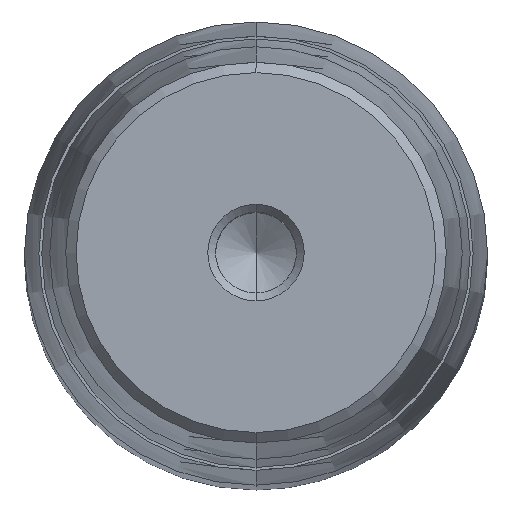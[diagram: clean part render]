
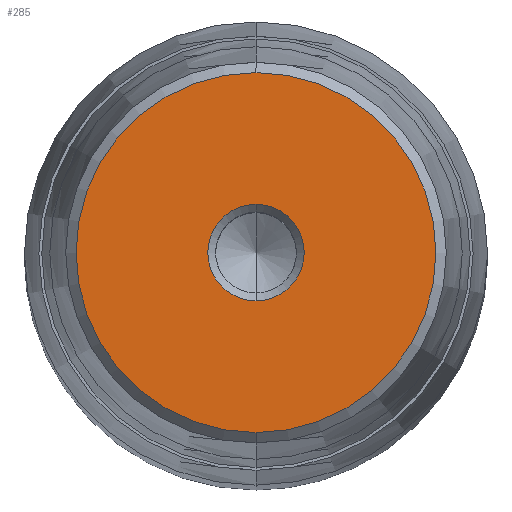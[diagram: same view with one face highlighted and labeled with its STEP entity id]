
A CAD part, top view. The second image highlights one B-rep face of the part: STEP entity #285.
In plain terms, the highlighted planar face has unit normal (0, 0, 1).
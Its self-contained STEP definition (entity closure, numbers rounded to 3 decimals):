
#164=CARTESIAN_POINT('Axis2P3D Location',(0.,0.,58.)) ;
#168=CARTESIAN_POINT('Vertex',(5.,0.,58.)) ;
#170=CARTESIAN_POINT('Vertex',(0.,-5.,58.)) ;
#173=CARTESIAN_POINT('Axis2P3D Location',(0.,0.,58.)) ;
#177=CARTESIAN_POINT('Vertex',(0.,5.,58.)) ;
#228=CARTESIAN_POINT('Axis2P3D Location',(0.,5.,58.)) ;
#233=CARTESIAN_POINT('Axis2P3D Location',(0.,0.,58.)) ;
#237=CARTESIAN_POINT('Vertex',(0.,18.65,58.)) ;
#239=CARTESIAN_POINT('Vertex',(18.65,0.,58.)) ;
#242=CARTESIAN_POINT('Axis2P3D Location',(0.,0.,58.)) ;
#246=CARTESIAN_POINT('Vertex',(-18.65,0.,58.)) ;
#249=CARTESIAN_POINT('Axis2P3D Location',(0.,0.,58.)) ;
#253=CARTESIAN_POINT('Vertex',(0.,-18.65,58.)) ;
#256=CARTESIAN_POINT('Axis2P3D Location',(0.,0.,58.)) ;
#267=CARTESIAN_POINT('Axis2P3D Location',(0.,0.,58.)) ;
#271=CARTESIAN_POINT('Vertex',(-5.,0.,58.)) ;
#274=CARTESIAN_POINT('Axis2P3D Location',(0.,0.,58.)) ;
#165=DIRECTION('Axis2P3D Direction',(0.,0.,1.)) ;
#174=DIRECTION('Axis2P3D Direction',(0.,0.,1.)) ;
#229=DIRECTION('Axis2P3D Direction',(-0.,0.,-1.)) ;
#230=DIRECTION('Axis2P3D XDirection',(0.,1.,0.)) ;
#234=DIRECTION('Axis2P3D Direction',(-0.,0.,-1.)) ;
#243=DIRECTION('Axis2P3D Direction',(-0.,0.,-1.)) ;
#250=DIRECTION('Axis2P3D Direction',(-0.,0.,-1.)) ;
#257=DIRECTION('Axis2P3D Direction',(-0.,0.,-1.)) ;
#268=DIRECTION('Axis2P3D Direction',(-0.,0.,-1.)) ;
#275=DIRECTION('Axis2P3D Direction',(-0.,0.,-1.)) ;
#166=AXIS2_PLACEMENT_3D('Circle Axis2P3D',#164,#165,$) ;
#175=AXIS2_PLACEMENT_3D('Circle Axis2P3D',#173,#174,$) ;
#231=AXIS2_PLACEMENT_3D('Plane Axis2P3D',#228,#229,#230) ;
#235=AXIS2_PLACEMENT_3D('Circle Axis2P3D',#233,#234,$) ;
#244=AXIS2_PLACEMENT_3D('Circle Axis2P3D',#242,#243,$) ;
#251=AXIS2_PLACEMENT_3D('Circle Axis2P3D',#249,#250,$) ;
#258=AXIS2_PLACEMENT_3D('Circle Axis2P3D',#256,#257,$) ;
#269=AXIS2_PLACEMENT_3D('Circle Axis2P3D',#267,#268,$) ;
#276=AXIS2_PLACEMENT_3D('Circle Axis2P3D',#274,#275,$) ;
#262=ORIENTED_EDGE('',*,*,#241,.F.) ;
#263=ORIENTED_EDGE('',*,*,#248,.F.) ;
#264=ORIENTED_EDGE('',*,*,#255,.F.) ;
#265=ORIENTED_EDGE('',*,*,#260,.F.) ;
#280=ORIENTED_EDGE('',*,*,#172,.T.) ;
#281=ORIENTED_EDGE('',*,*,#273,.T.) ;
#282=ORIENTED_EDGE('',*,*,#278,.T.) ;
#283=ORIENTED_EDGE('',*,*,#179,.T.) ;
#284=FACE_BOUND('',#279,.T.) ;
#285=ADVANCED_FACE('722-48x315x355',(#266,#284),#232,.F.) ;
#167=CIRCLE('generated circle',#166,5.) ;
#176=CIRCLE('generated circle',#175,5.) ;
#236=CIRCLE('generated circle',#235,18.65) ;
#245=CIRCLE('generated circle',#244,18.65) ;
#252=CIRCLE('generated circle',#251,18.65) ;
#259=CIRCLE('generated circle',#258,18.65) ;
#270=CIRCLE('generated circle',#269,5.) ;
#277=CIRCLE('generated circle',#276,5.) ;
#172=EDGE_CURVE('',#169,#171,#167,.F.) ;
#179=EDGE_CURVE('',#178,#169,#176,.F.) ;
#241=EDGE_CURVE('',#238,#240,#236,.T.) ;
#248=EDGE_CURVE('',#247,#238,#245,.T.) ;
#255=EDGE_CURVE('',#254,#247,#252,.T.) ;
#260=EDGE_CURVE('',#240,#254,#259,.T.) ;
#273=EDGE_CURVE('',#171,#272,#270,.T.) ;
#278=EDGE_CURVE('',#272,#178,#277,.T.) ;
#261=EDGE_LOOP('',(#262,#263,#264,#265)) ;
#279=EDGE_LOOP('',(#280,#281,#282,#283)) ;
#266=FACE_OUTER_BOUND('',#261,.T.) ;
#232=PLANE('Plane',#231) ;
#169=VERTEX_POINT('',#168) ;
#171=VERTEX_POINT('',#170) ;
#178=VERTEX_POINT('',#177) ;
#238=VERTEX_POINT('',#237) ;
#240=VERTEX_POINT('',#239) ;
#247=VERTEX_POINT('',#246) ;
#254=VERTEX_POINT('',#253) ;
#272=VERTEX_POINT('',#271) ;
